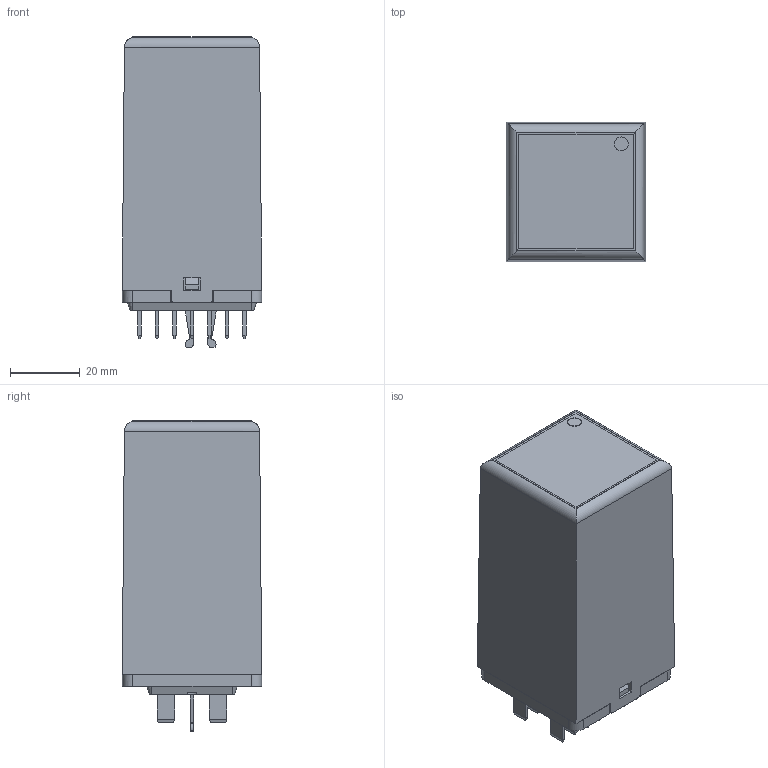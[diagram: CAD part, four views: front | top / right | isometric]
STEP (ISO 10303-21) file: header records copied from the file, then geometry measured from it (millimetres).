
FILE_DESCRIPTION((''),'2;1');
FILE_NAME('I:\TI\Bibliotheek\Inventor\Relais\TDE\TDE-U200.stp','2011-03-08T13:45:49',('oey'),(''),'Autodesk Inventor 2011','Autodesk Inventor 2011','');
FILE_SCHEMA(('AUTOMOTIVE_DESIGN { 1 0 10303 214 1 1 1 1 }'));
Length unit declared in the file: millimetre
Products named in the file (1): TDE-U200
Bounding box: 40 x 40.06 x 88.95 mm (x, y, z)
Volume: 29503.3 mm3; surface area: 35760.3 mm2
Topology: 1 solids, 1 shells, 1481 faces, 4242 edges, 2703 vertices
Faces by surface type: plane 898, cylinder 404, bspline 116, sphere 56, cone 6, torus 1
Full cylindrical faces by diameter (mm): 1.6 x14, 1.7 x1, 2.7 x4, 4 x1
Entity records: 50602 total; most frequent: CARTESIAN_POINT 10279, ORIENTED_EDGE 8418, DIRECTION 7699, EDGE_CURVE 4209, VECTOR 2963, LINE 2963, VERTEX_POINT 2684, AXIS2_PLACEMENT_3D 2368
